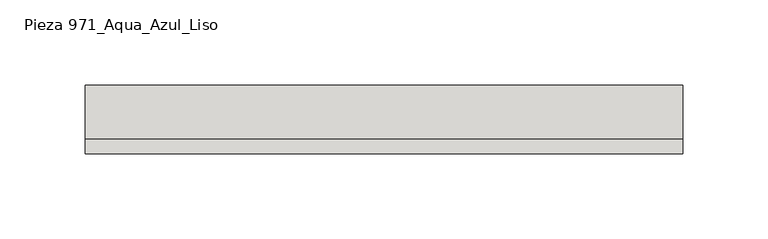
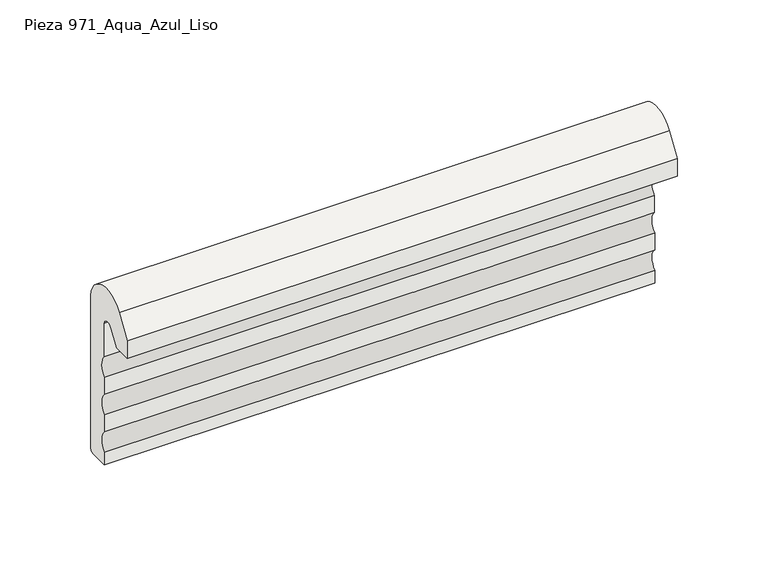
"""IFC4 building model written with IfcOpenShell, lengths in millimetres: slab geometry, ROSA GRES_971 : Pieza 971_Aqua_Azul_Liso."""

import ifcopenshell
import ifcopenshell.guid

model = None  # the IFC model being written
_history = None  # IfcOwnerHistory: only IFC2X3 demands one
_inside = {}  # id of a spatial element -> (the spatial element, [elements in it])
_under = {}  # id of a project, library or spatial element -> (it, [spatial elements below it])
_declared = {}  # id of a project -> (the project, [libraries it declares])
_typed = {}  # id of a type object -> (the type object, [elements of that type])
_made_of = {}  # id of a material, layer set ... -> (it, [elements and type objects made of it])


def new_model(schema):
    """Start an empty IFC model of exactly this schema.

    Asked for "IFC4X3", IfcOpenShell would pick the latest addendum, in which some entities
    have other attributes; the version numbers below select the first issue.
    IFC2X3 requires an IfcOwnerHistory on every rooted entity: one is made here for all.
    """
    global model, _history
    if schema == "IFC4X3":
        model = ifcopenshell.file(schema_version=(4, 3, 0, 0))
    else:
        model = ifcopenshell.file(schema=schema)
    _inside.clear()
    _under.clear()
    _declared.clear()
    _typed.clear()
    _made_of.clear()
    _history = None
    if model.schema == "IFC2X3":
        org = make("IfcOrganization", Name="unknown")
        user = make(
            "IfcPersonAndOrganization",
            ThePerson=make("IfcPerson", FamilyName="unknown"),
            TheOrganization=org,
        )
        app = make(
            "IfcApplication",
            ApplicationDeveloper=org,
            Version="unknown",
            ApplicationFullName="unknown",
            ApplicationIdentifier="unknown",
        )
        _history = make(
            "IfcOwnerHistory",
            OwningUser=user,
            OwningApplication=app,
            ChangeAction="ADDED",
            CreationDate=0,
        )
    return model


def make(cls, **values):
    """One entity of the class cls with the attributes given. An attribute that is None is left unset."""
    return model.create_entity(
        cls, **{name: value for name, value in values.items() if value is not None}
    )


def rooted(cls, **values):
    """An entity with a GlobalId (a new one), such as an element, a storey or a relation."""
    return make(cls, GlobalId=ifcopenshell.guid.new(), OwnerHistory=_history, **values)


def si_unit(unit_type, name, prefix=None):
    """IfcSIUnit, for example si_unit("LENGTHUNIT", "METRE", prefix="MILLI")."""
    return make("IfcSIUnit", UnitType=unit_type, Prefix=prefix, Name=name)


def assignment(units):
    """IfcUnitAssignment: the units of a project."""
    return None if units is None else make("IfcUnitAssignment", Units=units)


def point(xyz):
    """IfcCartesianPoint."""
    return None if xyz is None else make("IfcCartesianPoint", Coordinates=xyz)


def direction(xyz):
    """IfcDirection."""
    return None if xyz is None else make("IfcDirection", DirectionRatios=xyz)


def frame(location, z_axis=None, x_axis=None):
    """IfcAxis2Placement3D, a coordinate frame: its origin and axes. An axis left out is left unset."""
    return make(
        "IfcAxis2Placement3D",
        Location=point(location),
        Axis=direction(z_axis),
        RefDirection=direction(x_axis),
    )


def frame_2d(location, x_axis=None):
    """IfcAxis2Placement2D, a coordinate frame in the plane: its origin and x axis."""
    return make(
        "IfcAxis2Placement2D", Location=point(location), RefDirection=direction(x_axis)
    )


def origin():
    """The frame at (0, 0, 0) with its axes left unset."""
    return frame((0.0, 0.0, 0.0))


def place(relative_to, where):
    """IfcLocalPlacement: puts the frame where relative to a parent placement (None: the world)."""
    return make(
        "IfcLocalPlacement", PlacementRelTo=relative_to, RelativePlacement=where
    )


def context(
    kind, dimensions, precision=None, world=None, true_north=None, identifier=None
):
    """IfcGeometricRepresentationContext, for example the 3D "Model" context."""
    return make(
        "IfcGeometricRepresentationContext",
        ContextIdentifier=identifier,
        ContextType=kind,
        CoordinateSpaceDimension=dimensions,
        Precision=precision,
        WorldCoordinateSystem=world,
        TrueNorth=true_north,
    )


def project(units=None, contexts=None):
    """IfcProject with its units and contexts."""
    return rooted(
        "IfcProject",
        Name="project",
        RepresentationContexts=contexts,
        UnitsInContext=assignment(units),
    )


def spatial(cls, under=None, at=None, **own):
    """A site, building, storey or space (cls), placed at a placement, below another one or the project."""
    s = rooted(cls, ObjectPlacement=at, **own)
    if under is not None:
        _under.setdefault(under.id(), (under, []))[1].append(s)
    return s


def polyline(points):
    """IfcPolyline through the points."""
    return make("IfcPolyline", Points=[point(p) for p in points])


def circle_curve(where, radius):
    """IfcCircle in the frame where."""
    return make("IfcCircle", Position=where, Radius=radius)


def trimmed(basis, trim1, trim2, sense, master):
    """IfcTrimmedCurve: the piece of a basis curve between two trims."""
    return make(
        "IfcTrimmedCurve",
        BasisCurve=basis,
        Trim1=trim1,
        Trim2=trim2,
        SenseAgreement=sense,
        MasterRepresentation=master,
    )


def segment(curve, same_sense, transition):
    """IfcCompositeCurveSegment."""
    return make(
        "IfcCompositeCurveSegment",
        Transition=transition,
        SameSense=same_sense,
        ParentCurve=curve,
    )


def composite_curve(segments, self_intersect=None):
    """IfcCompositeCurve: segments joined end to end."""
    return make("IfcCompositeCurve", Segments=segments, SelfIntersect=self_intersect)


def outline(outer, holes=None, kind="AREA"):
    """IfcArbitraryClosedProfileDef: a profile drawn as a closed curve; with holes, ...WithVoids."""
    if holes is None:
        return make("IfcArbitraryClosedProfileDef", ProfileType=kind, OuterCurve=outer)
    return make(
        "IfcArbitraryProfileDefWithVoids",
        ProfileType=kind,
        OuterCurve=outer,
        InnerCurves=holes,
    )


def extrude(swept, where, along, depth):
    """IfcExtrudedAreaSolid: the profile swept, set in the frame where, extruded along a direction by depth."""
    return make(
        "IfcExtrudedAreaSolid",
        SweptArea=swept,
        Position=where,
        ExtrudedDirection=direction(along),
        Depth=depth,
    )


def shape(context_of_items, identifier, shape_type, items):
    """IfcShapeRepresentation: the items that make up one representation, for example the "Body"."""
    return make(
        "IfcShapeRepresentation",
        ContextOfItems=context_of_items,
        RepresentationIdentifier=identifier,
        RepresentationType=shape_type,
        Items=items,
    )


def source(mapping_origin, context_of_items, identifier, shape_type, items):
    """IfcRepresentationMap: a shape defined once, which mapped items show again and again."""
    return make(
        "IfcRepresentationMap",
        MappingOrigin=mapping_origin,
        MappedRepresentation=shape(context_of_items, identifier, shape_type, items),
    )


def transform(
    local_origin,
    x_axis=None,
    y_axis=None,
    z_axis=None,
    scale=None,
    scale2=None,
    scale3=None,
    uniform=True,
):
    """IfcCartesianTransformationOperator3D, or its non-uniform kind. x_axis, y_axis, z_axis: its Axis1, 2, 3."""
    if uniform:
        return make(
            "IfcCartesianTransformationOperator3D",
            Axis1=direction(x_axis),
            Axis2=direction(y_axis),
            LocalOrigin=point(local_origin),
            Scale=scale,
            Axis3=direction(z_axis),
        )
    return make(
        "IfcCartesianTransformationOperator3DnonUniform",
        Axis1=direction(x_axis),
        Axis2=direction(y_axis),
        LocalOrigin=point(local_origin),
        Scale=scale,
        Axis3=direction(z_axis),
        Scale2=scale2,
        Scale3=scale3,
    )


def mapped(mapping_source, mapping_target):
    """IfcMappedItem: shows the shape of a source again, moved by a transform."""
    return make(
        "IfcMappedItem", MappingSource=mapping_source, MappingTarget=mapping_target
    )


def made_of(thing, what):
    """Note that an element or type object is made of a material, layer set ...; save() writes the relation."""
    if what is not None:
        _made_of.setdefault(what.id(), (what, []))[1].append(thing)
    return thing


def element(
    cls,
    number,
    at=None,
    inside=None,
    cuts=None,
    type_object=None,
    material=None,
    context=None,
    identifier="Body",
    shape_type=None,
    held_by="IfcProductDefinitionShape",
    body=None,
    shapes=None,
    **own,
):
    """One element of the class cls, such as IfcWall. Its Tag is "e" and its number.

    at: its placement. inside: the storey or other place that contains it. cuts: it is an
    opening in that element (IfcRelVoidsElement). A single representation is given by context,
    identifier, shape_type and body (its items); several are given by shapes. held_by: the class
    of the entity that holds the representations. save() writes the other relations.
    """
    e = rooted(cls, Tag="e%d" % number, ObjectPlacement=at, **own)
    if body is not None:
        shapes = [shape(context, identifier, shape_type, body)]
    if shapes is not None:
        e.Representation = make(held_by, Representations=shapes)
    if inside is not None:
        _inside.setdefault(inside.id(), (inside, []))[1].append(e)
    if cuts is not None:
        rooted(
            "IfcRelVoidsElement", RelatingBuildingElement=cuts, RelatedOpeningElement=e
        )
    if type_object is not None:
        _typed.setdefault(type_object.id(), (type_object, []))[1].append(e)
    return made_of(e, material)


def aggregate(whole, parts):
    """IfcRelAggregates: a whole, such as a stair, and the parts it consists of."""
    return rooted("IfcRelAggregates", RelatingObject=whole, RelatedObjects=parts)


def save(model, path):
    """Write the relations noted so far, then the file.

    IfcRelAggregates (storeys below a building ...), IfcRelContainedInSpatialStructure (elements
    in a storey), IfcRelDefinesByType, IfcRelAssociatesMaterial and IfcRelDeclares: one each for
    every whole, place, type object, material and project.
    """
    for whole, parts in _under.values():
        aggregate(whole, parts)
    for where, things in _inside.values():
        rooted(
            "IfcRelContainedInSpatialStructure",
            RelatedElements=things,
            RelatingStructure=where,
        )
    for kind, things in _typed.values():
        rooted("IfcRelDefinesByType", RelatedObjects=things, RelatingType=kind)
    for what, things in _made_of.values():
        rooted("IfcRelAssociatesMaterial", RelatedObjects=things, RelatingMaterial=what)
    for by, libraries in _declared.values():
        rooted("IfcRelDeclares", RelatingContext=by, RelatedDefinitions=libraries)
    model.write(path)


def pieza_971_aqua_azul_liso_c4215186(model_context):
    return source(origin(), model_context, "Body", "SweptSolid", [
        extrude(outline(composite_curve([segment(trimmed(circle_curve(frame_2d((-16.8529233, 144.6319512)), 16.9196478), [point((-31.1851409, 153.6242825))], [point((0.0, 146.1331033))], False, "CARTESIAN"), True, "CONTINUOUS"), segment(polyline([(0.0, 146.1331033), (0.0, 44.0250913)]), True, "CONTINUOUS"), segment(trimmed(circle_curve(frame_2d((-2.68, 44.0250913)), 2.68), [point((0.0, 44.0250913))], [point((-2.68, 41.3450913))], False, "CARTESIAN"), True, "CONTINUOUS"), segment(polyline([(-2.68, 41.3450913), (-15.0062809, 41.3450913), (-15.0062809, 49.6275439)]), True, "CONTINUOUS"), segment(trimmed(circle_curve(frame_2d((-21.3959123, 56.5905141)), 9.450415), [point((-15.0062809, 49.6275439))], [point((-14.9614723, 63.5120982))], True, "CARTESIAN"), True, "CONTINUOUS"), segment(polyline([(-14.9614723, 63.5120982), (-14.9614723, 74.8171516)]), True, "CONTINUOUS"), segment(trimmed(circle_curve(frame_2d((-21.3511036, 81.7801218)), 9.450415), [point((-14.9614723, 74.8171516))], [point((-14.9166636, 88.7017059))], True, "CARTESIAN"), True, "CONTINUOUS"), segment(polyline([(-14.9166636, 88.7017059), (-14.9166636, 100.0067593)]), True, "CONTINUOUS"), segment(trimmed(circle_curve(frame_2d((-21.3613471, 107.0507801)), 9.5473648), [point((-14.9166636, 100.0067593))], [point((-14.3481673, 113.5290116))], True, "CARTESIAN"), True, "CONTINUOUS"), segment(polyline([(-14.3481673, 113.5290116), (-14.3481673, 136.0931579)]), True, "CONTINUOUS"), segment(trimmed(circle_curve(frame_2d((-18.761148, 135.3324983)), 4.4780578), [point((-14.3481673, 136.0931579))], [point((-22.7114874, 137.4414839))], True, "CARTESIAN"), True, "CONTINUOUS"), segment(polyline([(-22.7114874, 137.4414839), (-28.5599154, 128.1510212), (-39.9975962, 128.1510212), (-39.9975962, 139.9882747), (-31.1851409, 153.6242825)]), True, "CONTINUOUS")], self_intersect=False)), frame((0.0, 0.0, 0.0), z_axis=(1.0, 0.0, 0.0), x_axis=(0.0, 1.0, 0.0)), (0.0, 0.0, 1.0), 350.0),
    ])


if __name__ == "__main__":
    model = new_model("IFC4")
    model_context = context("Model", 3, world=origin())
    ifc_project = project(units=[si_unit("LENGTHUNIT", "METRE", prefix="MILLI")], contexts=[model_context])
    site = spatial("IfcSite", under=ifc_project)
    building = spatial("IfcBuilding", under=site)
    placement = place(None, origin())
    pieza_971_aqua_azul_liso_shape = pieza_971_aqua_azul_liso_c4215186(model_context)
    element("IfcSlab", 1, ObjectType="ROSA GRES_971 : Pieza 971_Aqua_Azul_Liso", at=placement, inside=building, context=model_context, shape_type="MappedRepresentation", body=[
        mapped(pieza_971_aqua_azul_liso_shape, transform((0.0, 0.0, 0.0), x_axis=(1.0, 0.0, 0.0), y_axis=(0.0, 1.0, 0.0), z_axis=(0.0, 0.0, 1.0))),
    ])
    save(model, "model.ifc")
